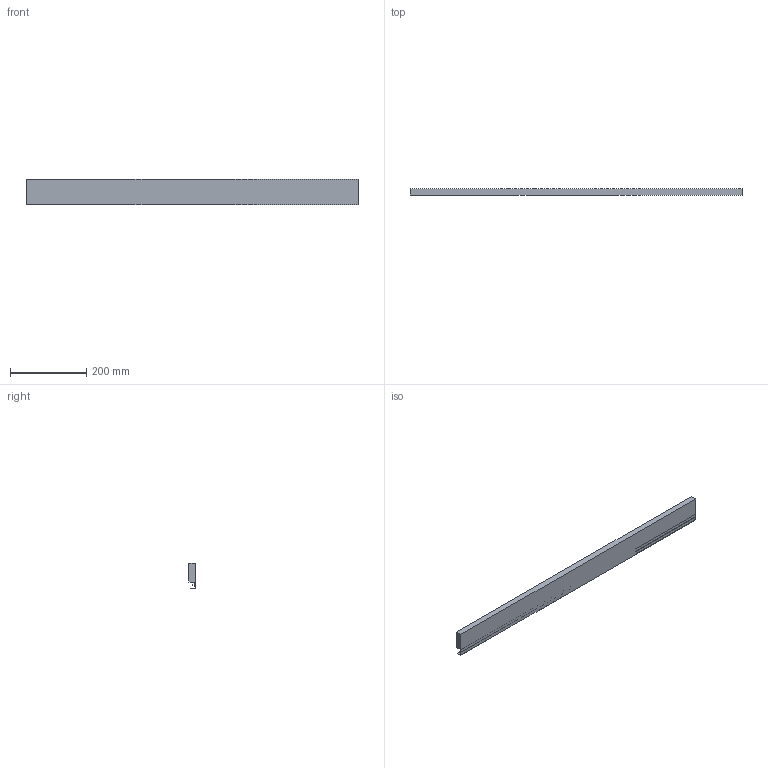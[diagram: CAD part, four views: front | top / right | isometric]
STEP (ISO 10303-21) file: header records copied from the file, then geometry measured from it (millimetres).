
FILE_DESCRIPTION (( 'STEP AP214' ), '1' );
FILE_NAME ('Innenschub-Blendenprofil_KAB1000_S18.step', '2010-09-23T12:27:03', ( 'grass' ), ( '' ), 'SwSTEP 2.0', 'SolidWorks 2010', '' );
FILE_SCHEMA (( 'AUTOMOTIVE_DESIGN' ));
Length unit declared in the file: millimetre
Products named in the file (1): Innenschub-Blendenprofil_KAB1000_S18
Bounding box: 873 x 15.9 x 67.6 mm (x, y, z)
Volume: 723870.3 mm3; surface area: 172975.6 mm2
Topology: 1 solids, 1 shells, 17 faces, 42 edges, 28 vertices
Faces by surface type: plane 15, cylinder 2
Entity records: 534 total; most frequent: CARTESIAN_POINT 88, ORIENTED_EDGE 84, DIRECTION 82, EDGE_CURVE 42, VECTOR 38, LINE 38, VERTEX_POINT 28, AXIS2_PLACEMENT_3D 22
